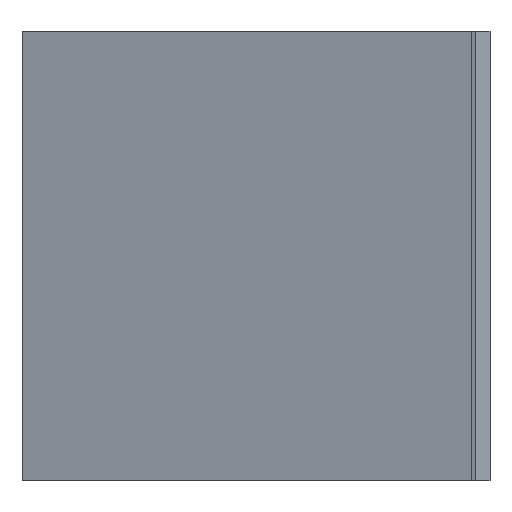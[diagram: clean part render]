
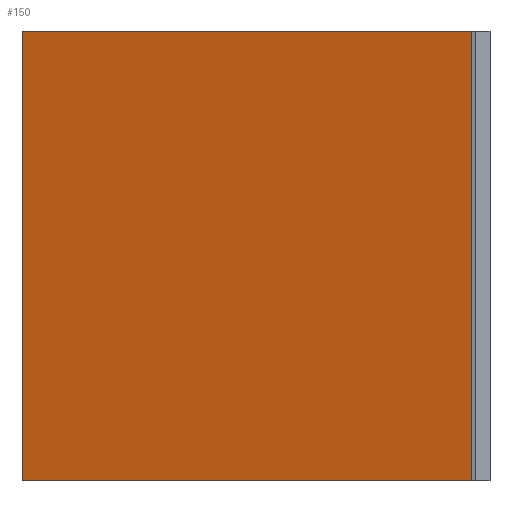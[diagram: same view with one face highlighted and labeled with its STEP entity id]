
A CAD part, left-side view. The second image highlights one B-rep face of the part: STEP entity #150.
In plain terms, the highlighted planar face has unit normal (0.955, -0.297, 0).
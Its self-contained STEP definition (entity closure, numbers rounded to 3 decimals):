
#98=CARTESIAN_POINT('Vertex',(20.,0.,0.)) ;
#101=CARTESIAN_POINT('Line Origine',(20.,0.,61.)) ;
#105=CARTESIAN_POINT('Vertex',(20.,0.,122.)) ;
#120=CARTESIAN_POINT('Axis2P3D Location',(20.,0.,0.)) ;
#125=CARTESIAN_POINT('Line Origine',(39.,61.,0.)) ;
#129=CARTESIAN_POINT('Vertex',(58.,122.,0.)) ;
#132=CARTESIAN_POINT('Line Origine',(58.,122.,61.)) ;
#136=CARTESIAN_POINT('Vertex',(58.,122.,122.)) ;
#139=CARTESIAN_POINT('Line Origine',(39.,61.,122.)) ;
#102=DIRECTION('Vector Direction',(0.,0.,1.)) ;
#121=DIRECTION('Axis2P3D Direction',(0.955,-0.297,0.)) ;
#122=DIRECTION('Axis2P3D XDirection',(0.297,0.955,0.)) ;
#126=DIRECTION('Vector Direction',(0.297,0.955,0.)) ;
#133=DIRECTION('Vector Direction',(0.,0.,1.)) ;
#140=DIRECTION('Vector Direction',(0.297,0.955,0.)) ;
#123=AXIS2_PLACEMENT_3D('Plane Axis2P3D',#120,#121,#122) ;
#145=ORIENTED_EDGE('',*,*,#107,.F.) ;
#146=ORIENTED_EDGE('',*,*,#131,.T.) ;
#147=ORIENTED_EDGE('',*,*,#138,.T.) ;
#148=ORIENTED_EDGE('',*,*,#143,.F.) ;
#103=VECTOR('Line Direction',#102,1.) ;
#127=VECTOR('Line Direction',#126,1.) ;
#134=VECTOR('Line Direction',#133,1.) ;
#141=VECTOR('Line Direction',#140,1.) ;
#150=ADVANCED_FACE('Extrude.1',(#149),#124,.T.) ;
#107=EDGE_CURVE('',#99,#106,#104,.T.) ;
#131=EDGE_CURVE('',#99,#130,#128,.T.) ;
#138=EDGE_CURVE('',#130,#137,#135,.T.) ;
#143=EDGE_CURVE('',#106,#137,#142,.T.) ;
#144=EDGE_LOOP('',(#145,#146,#147,#148)) ;
#149=FACE_OUTER_BOUND('',#144,.T.) ;
#104=LINE('Line',#101,#103) ;
#128=LINE('Line',#125,#127) ;
#135=LINE('Line',#132,#134) ;
#142=LINE('Line',#139,#141) ;
#124=PLANE('',#123) ;
#99=VERTEX_POINT('',#98) ;
#106=VERTEX_POINT('',#105) ;
#130=VERTEX_POINT('',#129) ;
#137=VERTEX_POINT('',#136) ;
